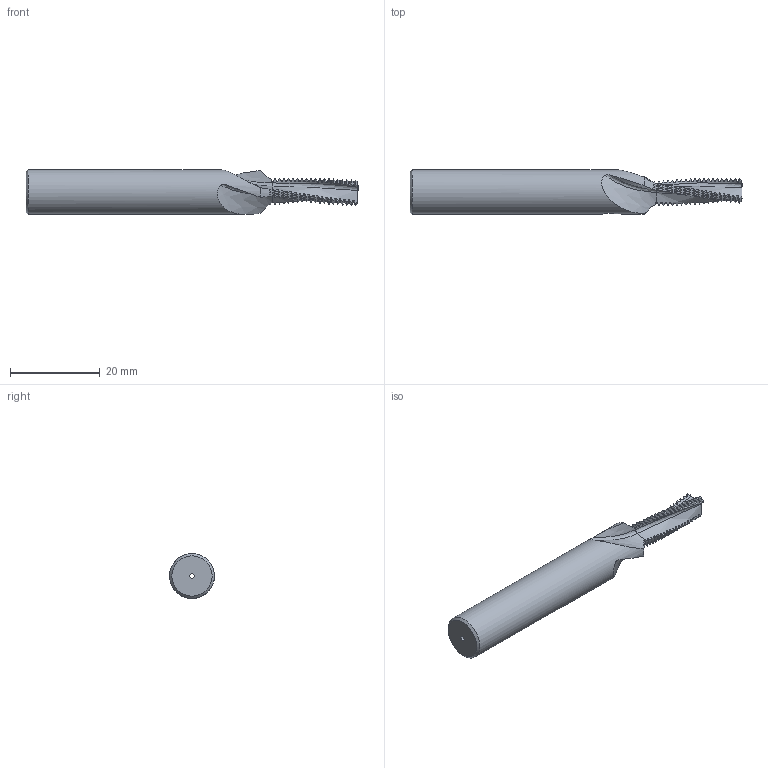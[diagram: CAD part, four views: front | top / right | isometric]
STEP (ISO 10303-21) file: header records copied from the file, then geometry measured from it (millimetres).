
FILE_DESCRIPTION(/* description */ (''),/* implementation_level */ '2;1');
FILE_NAME(/* name */ '00036351-STEP',/* time_stamp */ '2024-02-14T08:09:45+01:00',/* author */ (''),/* organization */ (''),/* preprocessor_version */ 'ST-DEVELOPER v16.5',/* originating_system */ 'HiCAD 2017 2201.0 Build 268',/* authorisation */ '');
FILE_SCHEMA (('AUTOMOTIVE_DESIGN { 1 0 10303 214 1 1 1 1 }'));
Products named in the file (2): Root; ROTATIONSTEIL_0
Assembly tree (1 placements, depth 2):
  Root
    ROTATIONSTEIL_0
Bounding box: 74 x 10 x 10 mm (x, y, z)
Volume: 4006.9 mm3; surface area: 2420.9 mm2
Topology: 1 solids, 1 shells, 380 faces, 1133 edges, 755 vertices
Faces by surface type: cylinder 122, cone 121, torus 117, bspline 18, plane 2
Full cylindrical faces by diameter (mm): 1 x1, 10 x1
Entity records: 38482 total; most frequent: CARTESIAN_POINT 18997, PRESENTATION_STYLE_ASSIGNMENT 2253, COLOUR_RGB 2253, DRAUGHTING_PRE_DEFINED_CURVE_FONT 2252, CURVE_STYLE 2252, OVER_RIDING_STYLED_ITEM 2252, ORIENTED_EDGE 2252, DIRECTION 1456
